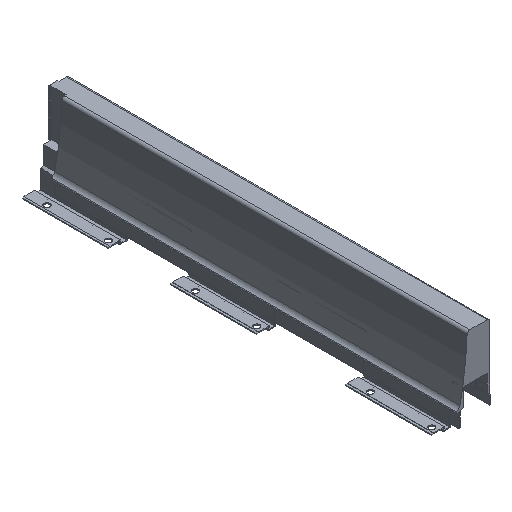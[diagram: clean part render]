
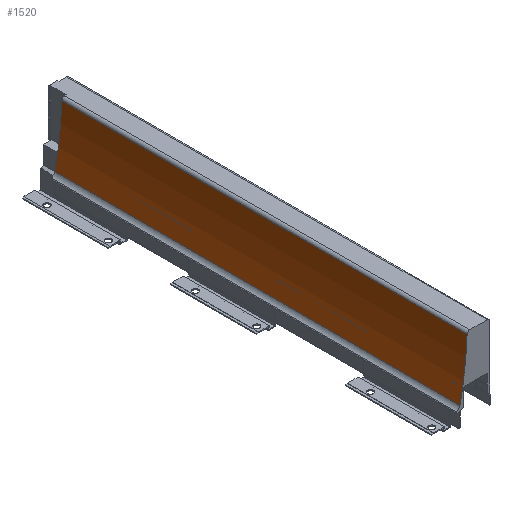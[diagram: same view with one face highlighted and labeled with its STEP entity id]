
A CAD part, isometric view. The second image highlights one B-rep face of the part: STEP entity #1520.
In plain terms, the highlighted cylindrical face has radius 350 mm (diameter 700 mm), a partial arc.
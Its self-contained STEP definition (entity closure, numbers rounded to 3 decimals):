
#89 = CARTESIAN_POINT ( 'NONE',  ( -19.877, 423.8, 46.603 ) ) ;
#97 = CARTESIAN_POINT ( 'NONE',  ( -27.28, 423.8, -13.751 ) ) ;
#308 = CARTESIAN_POINT ( 'NONE',  ( -27.28, 0., -13.751 ) ) ;
#315 = CARTESIAN_POINT ( 'NONE',  ( -19.877, 0., 46.603 ) ) ;
#374 = AXIS2_PLACEMENT_3D ( 'NONE', #4125, #4146, #4147 ) ;
#450 = AXIS2_PLACEMENT_3D ( 'NONE', #1817, #1809, #1812 ) ;
#718 = EDGE_CURVE ( 'NONE', #2250, #2251, #3847, .T. ) ;
#729 = EDGE_CURVE ( 'NONE', #2250, #3135, #3864, .T. ) ;
#763 = EDGE_CURVE ( 'NONE', #2251, #3128, #3922, .T. ) ;
#845 = EDGE_CURVE ( 'NONE', #3135, #3128, #4031, .T. ) ;
#887 = AXIS2_PLACEMENT_3D ( 'NONE', #3605, #3620, #3621 ) ;
#1520 = ADVANCED_FACE ( 'NONE', ( #1915 ), #1914, .F. ) ;
#1809 = DIRECTION ( 'NONE',  ( 0., -1., 0. ) ) ;
#1812 = DIRECTION ( 'NONE',  ( 1., 0., 0. ) ) ;
#1817 = CARTESIAN_POINT ( 'NONE',  ( -369.661, 440., 58.879 ) ) ;
#1914 = CYLINDRICAL_SURFACE ( 'NONE', #450, 350. ) ;
#1915 = FACE_OUTER_BOUND ( 'NONE', #3172, .T. ) ;
#2250 = VERTEX_POINT ( 'NONE', #89 ) ;
#2251 = VERTEX_POINT ( 'NONE', #97 ) ;
#3128 = VERTEX_POINT ( 'NONE', #308 ) ;
#3135 = VERTEX_POINT ( 'NONE', #315 ) ;
#3172 = EDGE_LOOP ( 'NONE', ( #3296, #3247, #3241, #3242 ) ) ;
#3241 = ORIENTED_EDGE ( 'NONE', *, *, #763, .T. ) ;
#3242 = ORIENTED_EDGE ( 'NONE', *, *, #845, .F. ) ;
#3247 = ORIENTED_EDGE ( 'NONE', *, *, #718, .T. ) ;
#3296 = ORIENTED_EDGE ( 'NONE', *, *, #729, .F. ) ;
#3605 = CARTESIAN_POINT ( 'NONE',  ( -369.661, 423.8, 58.879 ) ) ;
#3620 = DIRECTION ( 'NONE',  ( 0., 1., 0. ) ) ;
#3621 = DIRECTION ( 'NONE',  ( -1., 0., 0. ) ) ;
#3644 = CARTESIAN_POINT ( 'NONE',  ( -19.877, 440., 46.603 ) ) ;
#3645 = DIRECTION ( 'NONE',  ( 0., -1., 0. ) ) ;
#3706 = CARTESIAN_POINT ( 'NONE',  ( -27.28, 440., -13.751 ) ) ;
#3707 = DIRECTION ( 'NONE',  ( 0., -1., 0. ) ) ;
#3847 = CIRCLE ( 'NONE', #887, 350. ) ;
#3864 = LINE ( 'NONE', #3644, #3865 ) ;
#3865 = VECTOR ( 'NONE', #3645, 1000. ) ;
#3922 = LINE ( 'NONE', #3706, #3923 ) ;
#3923 = VECTOR ( 'NONE', #3707, 1000. ) ;
#4031 = CIRCLE ( 'NONE', #374, 350. ) ;
#4125 = CARTESIAN_POINT ( 'NONE',  ( -369.661, 0., 58.879 ) ) ;
#4146 = DIRECTION ( 'NONE',  ( 0., 1., 0. ) ) ;
#4147 = DIRECTION ( 'NONE',  ( -1., 0., 0. ) ) ;
